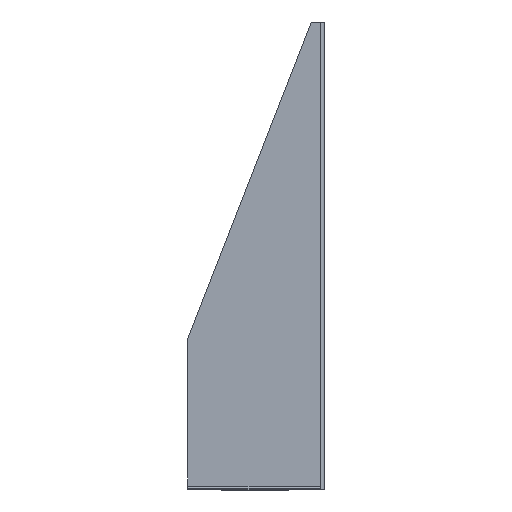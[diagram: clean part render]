
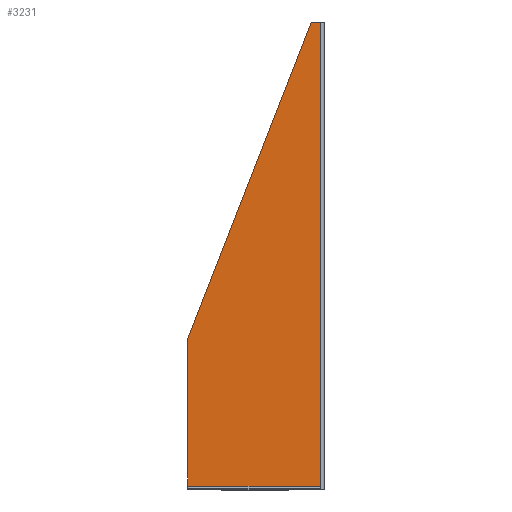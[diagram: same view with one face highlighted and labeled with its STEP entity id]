
A CAD part, left-side view. The second image highlights one B-rep face of the part: STEP entity #3231.
In plain terms, the highlighted planar face has unit normal (-1, 0, 0).
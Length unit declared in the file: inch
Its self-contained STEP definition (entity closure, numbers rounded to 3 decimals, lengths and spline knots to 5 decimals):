
#54 = LINE ( 'NONE', #4045, #13188 ) ;
#494 = CARTESIAN_POINT ( 'NONE',  ( -8.8125, 0.152, 0.152 ) ) ;
#1063 = DIRECTION ( 'NONE',  ( 0., 0., 1. ) ) ;
#1608 = ORIENTED_EDGE ( 'NONE', *, *, #17783, .F. ) ;
#2193 = DIRECTION ( 'NONE',  ( 0., 1., 0. ) ) ;
#2511 = VERTEX_POINT ( 'NONE', #5756 ) ;
#2613 = LINE ( 'NONE', #14653, #6623 ) ;
#3231 = ADVANCED_FACE ( 'NONE', ( #12149 ), #11516, .T. ) ;
#3427 = LINE ( 'NONE', #14285, #20631 ) ;
#3929 = VERTEX_POINT ( 'NONE', #4393 ) ;
#4045 = CARTESIAN_POINT ( 'NONE',  ( -8.8125, 0.5, 18. ) ) ;
#4047 = ORIENTED_EDGE ( 'NONE', *, *, #21825, .F. ) ;
#4393 = CARTESIAN_POINT ( 'NONE',  ( -8.8125, 5.25, 5.84375 ) ) ;
#4589 = CARTESIAN_POINT ( 'NONE',  ( -8.8125, 0.152, 18. ) ) ;
#4673 = DIRECTION ( 'NONE',  ( -1., 0., 0. ) ) ;
#5756 = CARTESIAN_POINT ( 'NONE',  ( -8.8125, 0.152, 0.152 ) ) ;
#6098 = VERTEX_POINT ( 'NONE', #11143 ) ;
#6623 = VECTOR ( 'NONE', #1063, 39.37008 ) ;
#6949 = VECTOR ( 'NONE', #16676, 39.37008 ) ;
#8679 = ORIENTED_EDGE ( 'NONE', *, *, #16480, .T. ) ;
#9191 = DIRECTION ( 'NONE',  ( 0., -1., 0. ) ) ;
#10803 = CARTESIAN_POINT ( 'NONE',  ( -8.8125, 0.152, 18. ) ) ;
#11143 = CARTESIAN_POINT ( 'NONE',  ( -8.8125, 5.25, 0.152 ) ) ;
#11516 = PLANE ( 'NONE',  #13613 ) ;
#11537 = LINE ( 'NONE', #4589, #6949 ) ;
#12149 = FACE_OUTER_BOUND ( 'NONE', #15086, .T. ) ;
#12422 = LINE ( 'NONE', #494, #15869 ) ;
#12707 = VERTEX_POINT ( 'NONE', #14540 ) ;
#13188 = VECTOR ( 'NONE', #14312, 39.37008 ) ;
#13613 = AXIS2_PLACEMENT_3D ( 'NONE', #20090, #4673, #16682 ) ;
#13857 = EDGE_CURVE ( 'NONE', #6098, #3929, #2613, .T. ) ;
#14285 = CARTESIAN_POINT ( 'NONE',  ( -8.8125, 0.072, 18. ) ) ;
#14312 = DIRECTION ( 'NONE',  ( 0., -0.364, 0.931 ) ) ;
#14540 = CARTESIAN_POINT ( 'NONE',  ( -8.8125, 0.5, 18. ) ) ;
#14653 = CARTESIAN_POINT ( 'NONE',  ( -8.8125, 5.25, 5.84375 ) ) ;
#15086 = EDGE_LOOP ( 'NONE', ( #19297, #20644, #8679, #1608, #4047 ) ) ;
#15869 = VECTOR ( 'NONE', #2193, 39.37008 ) ;
#16302 = EDGE_CURVE ( 'NONE', #2511, #6098, #12422, .T. ) ;
#16480 = EDGE_CURVE ( 'NONE', #2511, #19356, #11537, .T. ) ;
#16676 = DIRECTION ( 'NONE',  ( 0., 0., 1. ) ) ;
#16682 = DIRECTION ( 'NONE',  ( 0., -1., 0. ) ) ;
#17783 = EDGE_CURVE ( 'NONE', #12707, #19356, #3427, .T. ) ;
#19297 = ORIENTED_EDGE ( 'NONE', *, *, #13857, .F. ) ;
#19356 = VERTEX_POINT ( 'NONE', #10803 ) ;
#20090 = CARTESIAN_POINT ( 'NONE',  ( -8.8125, 0.072, 18. ) ) ;
#20631 = VECTOR ( 'NONE', #9191, 39.37008 ) ;
#20644 = ORIENTED_EDGE ( 'NONE', *, *, #16302, .F. ) ;
#21825 = EDGE_CURVE ( 'NONE', #3929, #12707, #54, .T. ) ;
